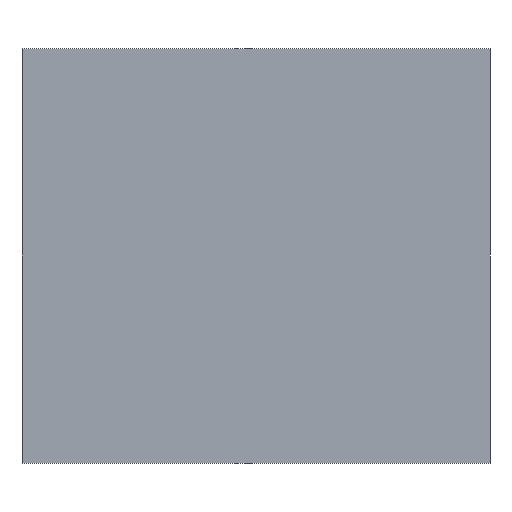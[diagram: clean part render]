
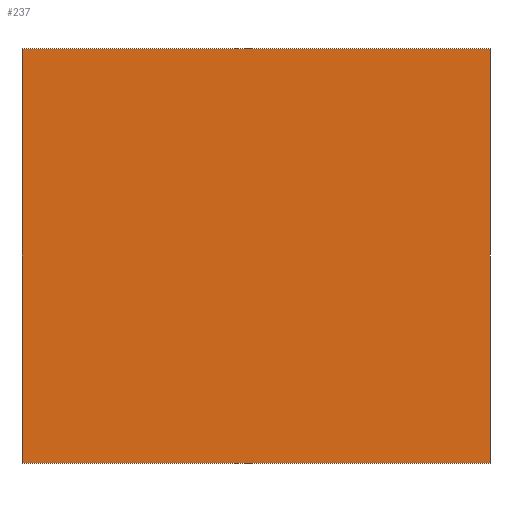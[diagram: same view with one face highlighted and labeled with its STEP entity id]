
A CAD part, front view. The second image highlights one B-rep face of the part: STEP entity #237.
In plain terms, the highlighted planar face has unit normal (0, -1, 0).
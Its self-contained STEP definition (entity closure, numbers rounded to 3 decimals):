
#21 = EDGE_CURVE('',#22,#24,#26,.T.);
#22 = VERTEX_POINT('',#23);
#23 = CARTESIAN_POINT('',(29.1,7.585,-15.01));
#24 = VERTEX_POINT('',#25);
#25 = CARTESIAN_POINT('',(29.1,7.585,-14.301));
#26 = SURFACE_CURVE('',#27,(#31,#43),.PCURVE_S1.);
#27 = LINE('',#28,#29);
#28 = CARTESIAN_POINT('',(29.1,7.585,-15.01));
#29 = VECTOR('',#30,1.);
#30 = DIRECTION('',(0.,0.,1.));
#31 = PCURVE('',#32,#37);
#32 = PLANE('',#33);
#33 = AXIS2_PLACEMENT_3D('',#34,#35,#36);
#34 = CARTESIAN_POINT('',(29.1,7.585,-15.01));
#35 = DIRECTION('',(1.,0.,-0.));
#36 = DIRECTION('',(0.,0.,1.));
#37 = DEFINITIONAL_REPRESENTATION('',(#38),#42);
#38 = LINE('',#39,#40);
#39 = CARTESIAN_POINT('',(0.,0.));
#40 = VECTOR('',#41,1.);
#41 = DIRECTION('',(1.,0.));
#42 = ( GEOMETRIC_REPRESENTATION_CONTEXT(2) 
PARAMETRIC_REPRESENTATION_CONTEXT() REPRESENTATION_CONTEXT('2D SPACE',''
  ) );
#43 = PCURVE('',#44,#49);
#44 = PLANE('',#45);
#45 = AXIS2_PLACEMENT_3D('',#46,#47,#48);
#46 = CARTESIAN_POINT('',(29.1,7.585,-15.01));
#47 = DIRECTION('',(-0.,1.,0.));
#48 = DIRECTION('',(0.,0.,1.));
#49 = DEFINITIONAL_REPRESENTATION('',(#50),#54);
#50 = LINE('',#51,#52);
#51 = CARTESIAN_POINT('',(0.,0.));
#52 = VECTOR('',#53,1.);
#53 = DIRECTION('',(1.,0.));
#54 = ( GEOMETRIC_REPRESENTATION_CONTEXT(2) 
PARAMETRIC_REPRESENTATION_CONTEXT() REPRESENTATION_CONTEXT('2D SPACE',''
  ) );
#72 = PLANE('',#73);
#73 = AXIS2_PLACEMENT_3D('',#74,#75,#76);
#74 = CARTESIAN_POINT('',(29.1,7.585,-15.01));
#75 = DIRECTION('',(0.,0.,1.));
#76 = DIRECTION('',(1.,0.,-0.));
#126 = PLANE('',#127);
#127 = AXIS2_PLACEMENT_3D('',#128,#129,#130);
#128 = CARTESIAN_POINT('',(29.1,7.585,-14.301));
#129 = DIRECTION('',(0.,0.,1.));
#130 = DIRECTION('',(1.,0.,-0.));
#141 = EDGE_CURVE('',#142,#144,#146,.T.);
#142 = VERTEX_POINT('',#143);
#143 = CARTESIAN_POINT('',(29.9,7.585,-15.01));
#144 = VERTEX_POINT('',#145);
#145 = CARTESIAN_POINT('',(29.9,7.585,-14.301));
#146 = SURFACE_CURVE('',#147,(#151,#163),.PCURVE_S1.);
#147 = LINE('',#148,#149);
#148 = CARTESIAN_POINT('',(29.9,7.585,-15.01));
#149 = VECTOR('',#150,1.);
#150 = DIRECTION('',(0.,0.,1.));
#151 = PCURVE('',#152,#157);
#152 = PLANE('',#153);
#153 = AXIS2_PLACEMENT_3D('',#154,#155,#156);
#154 = CARTESIAN_POINT('',(29.9,7.585,-15.01));
#155 = DIRECTION('',(1.,0.,-0.));
#156 = DIRECTION('',(0.,0.,1.));
#157 = DEFINITIONAL_REPRESENTATION('',(#158),#162);
#158 = LINE('',#159,#160);
#159 = CARTESIAN_POINT('',(0.,0.));
#160 = VECTOR('',#161,1.);
#161 = DIRECTION('',(1.,0.));
#162 = ( GEOMETRIC_REPRESENTATION_CONTEXT(2) 
PARAMETRIC_REPRESENTATION_CONTEXT() REPRESENTATION_CONTEXT('2D SPACE',''
  ) );
#163 = PCURVE('',#44,#164);
#164 = DEFINITIONAL_REPRESENTATION('',(#165),#169);
#165 = LINE('',#166,#167);
#166 = CARTESIAN_POINT('',(0.,0.8));
#167 = VECTOR('',#168,1.);
#168 = DIRECTION('',(1.,0.));
#169 = ( GEOMETRIC_REPRESENTATION_CONTEXT(2) 
PARAMETRIC_REPRESENTATION_CONTEXT() REPRESENTATION_CONTEXT('2D SPACE',''
  ) );
#237 = ADVANCED_FACE('',(#238),#44,.F.);
#238 = FACE_BOUND('',#239,.F.);
#239 = EDGE_LOOP('',(#240,#261,#262,#283));
#240 = ORIENTED_EDGE('',*,*,#241,.F.);
#241 = EDGE_CURVE('',#22,#142,#242,.T.);
#242 = SURFACE_CURVE('',#243,(#247,#254),.PCURVE_S1.);
#243 = LINE('',#244,#245);
#244 = CARTESIAN_POINT('',(29.1,7.585,-15.01));
#245 = VECTOR('',#246,1.);
#246 = DIRECTION('',(1.,0.,-0.));
#247 = PCURVE('',#44,#248);
#248 = DEFINITIONAL_REPRESENTATION('',(#249),#253);
#249 = LINE('',#250,#251);
#250 = CARTESIAN_POINT('',(0.,0.));
#251 = VECTOR('',#252,1.);
#252 = DIRECTION('',(0.,1.));
#253 = ( GEOMETRIC_REPRESENTATION_CONTEXT(2) 
PARAMETRIC_REPRESENTATION_CONTEXT() REPRESENTATION_CONTEXT('2D SPACE',''
  ) );
#254 = PCURVE('',#72,#255);
#255 = DEFINITIONAL_REPRESENTATION('',(#256),#260);
#256 = LINE('',#257,#258);
#257 = CARTESIAN_POINT('',(0.,0.));
#258 = VECTOR('',#259,1.);
#259 = DIRECTION('',(1.,0.));
#260 = ( GEOMETRIC_REPRESENTATION_CONTEXT(2) 
PARAMETRIC_REPRESENTATION_CONTEXT() REPRESENTATION_CONTEXT('2D SPACE',''
  ) );
#261 = ORIENTED_EDGE('',*,*,#21,.T.);
#262 = ORIENTED_EDGE('',*,*,#263,.T.);
#263 = EDGE_CURVE('',#24,#144,#264,.T.);
#264 = SURFACE_CURVE('',#265,(#269,#276),.PCURVE_S1.);
#265 = LINE('',#266,#267);
#266 = CARTESIAN_POINT('',(29.1,7.585,-14.301));
#267 = VECTOR('',#268,1.);
#268 = DIRECTION('',(1.,0.,-0.));
#269 = PCURVE('',#44,#270);
#270 = DEFINITIONAL_REPRESENTATION('',(#271),#275);
#271 = LINE('',#272,#273);
#272 = CARTESIAN_POINT('',(0.709,0.));
#273 = VECTOR('',#274,1.);
#274 = DIRECTION('',(0.,1.));
#275 = ( GEOMETRIC_REPRESENTATION_CONTEXT(2) 
PARAMETRIC_REPRESENTATION_CONTEXT() REPRESENTATION_CONTEXT('2D SPACE',''
  ) );
#276 = PCURVE('',#126,#277);
#277 = DEFINITIONAL_REPRESENTATION('',(#278),#282);
#278 = LINE('',#279,#280);
#279 = CARTESIAN_POINT('',(0.,0.));
#280 = VECTOR('',#281,1.);
#281 = DIRECTION('',(1.,0.));
#282 = ( GEOMETRIC_REPRESENTATION_CONTEXT(2) 
PARAMETRIC_REPRESENTATION_CONTEXT() REPRESENTATION_CONTEXT('2D SPACE',''
  ) );
#283 = ORIENTED_EDGE('',*,*,#141,.F.);
